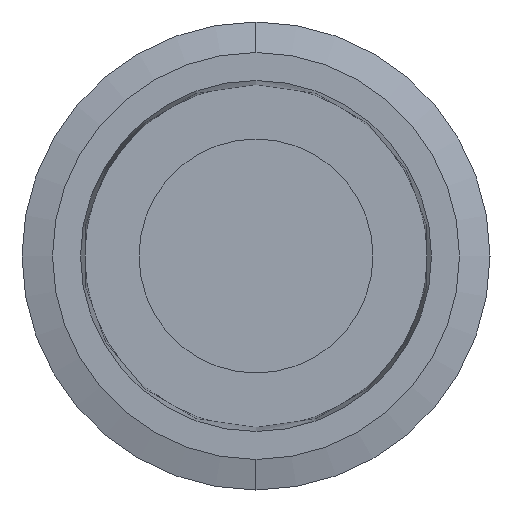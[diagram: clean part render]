
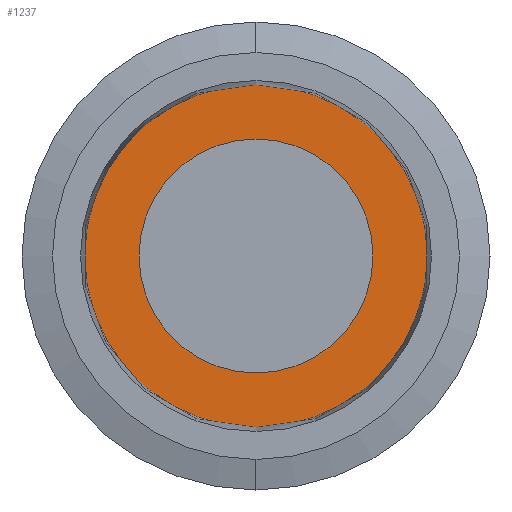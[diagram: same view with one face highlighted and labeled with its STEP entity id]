
A CAD part, left-side view. The second image highlights one B-rep face of the part: STEP entity #1237.
In plain terms, the highlighted planar face has unit normal (-1, 0, 0).
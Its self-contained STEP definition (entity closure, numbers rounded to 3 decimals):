
#8 = ORIENTED_EDGE ( 'NONE', *, *, #568, .F. ) ;
#31 = PLANE ( 'NONE',  #708 ) ;
#41 = CARTESIAN_POINT ( 'NONE',  ( 2., 0., 0. ) ) ;
#62 = CARTESIAN_POINT ( 'NONE',  ( 2., 0., 0. ) ) ;
#71 = EDGE_LOOP ( 'NONE', ( #8, #887 ) ) ;
#85 = DIRECTION ( 'NONE',  ( 0., 0., 1. ) ) ;
#88 = DIRECTION ( 'NONE',  ( -1., 0., 0. ) ) ;
#90 = DIRECTION ( 'NONE',  ( -1., 0., 0. ) ) ;
#91 = DIRECTION ( 'NONE',  ( 0., 0., 1. ) ) ;
#108 = CARTESIAN_POINT ( 'NONE',  ( 2., 0., 0. ) ) ;
#126 = DIRECTION ( 'NONE',  ( 0., 0., 1. ) ) ;
#133 = DIRECTION ( 'NONE',  ( -1., 0., 0. ) ) ;
#137 = CARTESIAN_POINT ( 'NONE',  ( 2., 0., 0. ) ) ;
#138 = DIRECTION ( 'NONE',  ( 0., 0., 1. ) ) ;
#140 = EDGE_CURVE ( 'NONE', #517, #1207, #1239, .T. ) ;
#192 = DIRECTION ( 'NONE',  ( -1., 0., 0. ) ) ;
#198 = EDGE_LOOP ( 'NONE', ( #1208, #551 ) ) ;
#284 = CARTESIAN_POINT ( 'NONE',  ( 2., 0., -2. ) ) ;
#313 = CIRCLE ( 'NONE', #786, 2.93 ) ;
#335 = DIRECTION ( 'NONE',  ( 0., 0., 1. ) ) ;
#336 = FACE_BOUND ( 'NONE', #71, .T. ) ;
#345 = CARTESIAN_POINT ( 'NONE',  ( 2., 0., 2.93 ) ) ;
#346 = DIRECTION ( 'NONE',  ( -1., 0., 0. ) ) ;
#417 = AXIS2_PLACEMENT_3D ( 'NONE', #108, #90, #85 ) ;
#440 = CARTESIAN_POINT ( 'NONE',  ( 2., 0., 0. ) ) ;
#475 = CIRCLE ( 'NONE', #1067, 2. ) ;
#517 = VERTEX_POINT ( 'NONE', #345 ) ;
#551 = ORIENTED_EDGE ( 'NONE', *, *, #692, .T. ) ;
#568 = EDGE_CURVE ( 'NONE', #654, #1090, #475, .T. ) ;
#654 = VERTEX_POINT ( 'NONE', #826 ) ;
#692 = EDGE_CURVE ( 'NONE', #1207, #517, #313, .T. ) ;
#708 = AXIS2_PLACEMENT_3D ( 'NONE', #62, #192, #91 ) ;
#786 = AXIS2_PLACEMENT_3D ( 'NONE', #440, #346, #335 ) ;
#790 = CARTESIAN_POINT ( 'NONE',  ( 2., 0., -2.93 ) ) ;
#826 = CARTESIAN_POINT ( 'NONE',  ( 2., 0., 2. ) ) ;
#882 = EDGE_CURVE ( 'NONE', #1090, #654, #1216, .T. ) ;
#887 = ORIENTED_EDGE ( 'NONE', *, *, #882, .F. ) ;
#1067 = AXIS2_PLACEMENT_3D ( 'NONE', #137, #133, #126 ) ;
#1073 = FACE_OUTER_BOUND ( 'NONE', #198, .T. ) ;
#1090 = VERTEX_POINT ( 'NONE', #284 ) ;
#1122 = AXIS2_PLACEMENT_3D ( 'NONE', #41, #88, #138 ) ;
#1207 = VERTEX_POINT ( 'NONE', #790 ) ;
#1208 = ORIENTED_EDGE ( 'NONE', *, *, #140, .T. ) ;
#1216 = CIRCLE ( 'NONE', #417, 2. ) ;
#1237 = ADVANCED_FACE ( 'NONE', ( #336, #1073 ), #31, .T. ) ;
#1239 = CIRCLE ( 'NONE', #1122, 2.93 ) ;
